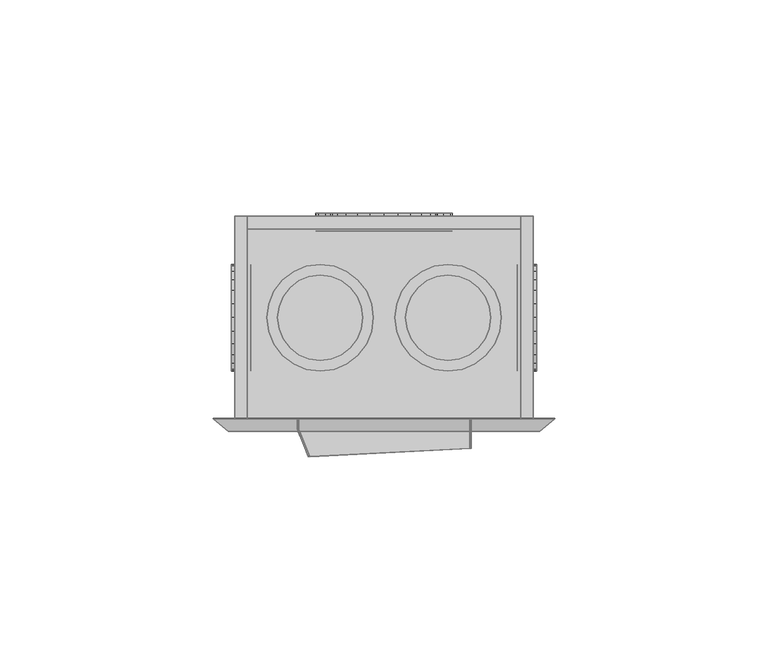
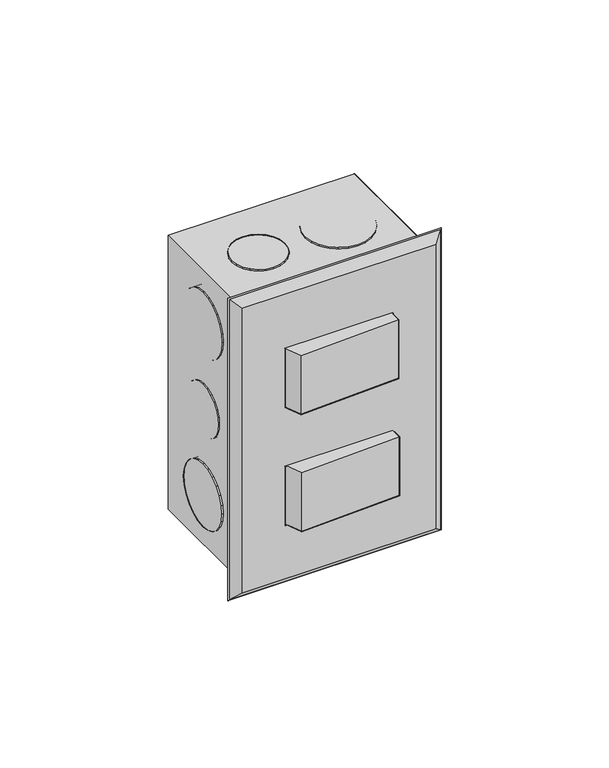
"""IFC4 building model written with IfcOpenShell, lengths in millimetres: proxy geometry,  210399 :  210399."""

from ifc_helpers import new_model, si_unit, origin, place, context, project, spatial, triangles, source, transform, mapped, element, save


def generic_models_5011d82d(model_context):
    return source(origin(), model_context, "Body", "Tessellation", [
        triangles([(27921.0003845, 13148.2997681, 1254.3000378), (27918.0005676, 13148.2997681, 1148.7000154), (27921.0003845, 13148.2997681, 1145.6999805), (27918.0005676, 13148.2997681, 1251.2999302), (27851.0000061, 13148.2997681, 1254.3000378), (27853.999823, 13148.2997681, 1251.2999302), (27851.0000061, 13148.2997681, 1145.6999805), (27853.999823, 13148.2997681, 1148.7000154), (27918.0005676, 13195.8003571, 1251.2999302), (27918.0005676, 13195.8003571, 1148.7000154), (27851.0000061, 13195.8003571, 1254.3000378), (27851.0000061, 13195.8003571, 1145.6999805), (27853.999823, 13195.8003571, 1251.2999302), (27921.0003845, 13195.8003571, 1145.6999805), (27853.999823, 13195.8003571, 1148.7000154), (27921.0003845, 13195.8003571, 1254.3000378), (27918.0005676, 13192.8005402, 1251.2999302), (27853.999823, 13192.8005402, 1148.7000154), (27918.0005676, 13192.8005402, 1148.7000154), (27853.999823, 13192.8005402, 1251.2999302), (27893.999707, 13196.5003143, 1186.0999855), (27899.8993469, 13196.5003143, 1191.9999887), (27897.2995056, 13196.5003143, 1188.6999722), (27890.199939, 13196.5003143, 1184.5000105), (27901.4992493, 13196.5003143, 1195.8999687), (27886.0001953, 13196.5003143, 1183.9999683), (27901.9992187, 13196.5003143, 1200.0000092), (27881.9004456, 13196.5003143, 1184.5000105), (27901.4992493, 13196.5003143, 1204.0999769), (27878.0006836, 13196.5003143, 1186.0999855), (27899.8993469, 13196.5003143, 1208.0000296), (27874.700885, 13196.5003143, 1188.6999722), (27897.2995056, 13196.5003143, 1211.2999735), (27872.2010376, 13196.5003143, 1191.9999887), (27893.999707, 13196.5003143, 1213.9000328), (27870.6011353, 13196.5003143, 1195.8999687), (27890.199939, 13196.5003143, 1215.5000078), (27869.9988464, 13196.5003143, 1200.0000092), (27886.0001953, 13196.5003143, 1215.9999773), (27870.6011353, 13196.5003143, 1204.0999769), (27881.9004456, 13196.5003143, 1215.5000078), (27872.2010376, 13196.5003143, 1208.0000296), (27878.0006836, 13196.5003143, 1213.9000328), (27874.700885, 13196.5003143, 1211.2999735), (27890.199939, 13192.3005707, 1215.5000078), (27886.0001953, 13192.3005707, 1215.9999773), (27893.999707, 13192.3005707, 1213.9000328), (27897.2995056, 13192.3005707, 1211.2999735), (27899.8993469, 13192.3005707, 1208.0000296), (27901.4992493, 13192.3005707, 1204.0999769), (27901.9992187, 13192.3005707, 1200.0000092), (27901.4992493, 13192.3005707, 1195.8999687), (27899.8993469, 13192.3005707, 1191.9999887), (27897.2995056, 13192.3005707, 1188.6999722), (27893.999707, 13192.3005707, 1186.0999855), (27890.199939, 13192.3005707, 1184.5000105), (27886.0001953, 13192.3005707, 1183.9999683), (27881.9004456, 13192.3005707, 1184.5000105), (27878.0006836, 13192.3005707, 1186.0999855), (27874.700885, 13192.3005707, 1188.6999722), (27872.2010376, 13192.3005707, 1191.9999887), (27870.6011353, 13192.3005707, 1195.8999687), (27869.9988464, 13192.3005707, 1200.0000092), (27870.6011353, 13192.3005707, 1204.0999769), (27872.2010376, 13192.3005707, 1208.0000296), (27874.700885, 13192.3005707, 1211.2999735), (27878.0006836, 13192.3005707, 1213.9000328), (27881.9004456, 13192.3005707, 1215.5000078), (27896.89953, 13192.3005707, 1227.8000565), (27892.2998108, 13192.3005707, 1223.2000465), (27894.8996521, 13192.3005707, 1225.2000698), (27898.0994568, 13192.3005707, 1230.8000187), (27889.2999939, 13192.3005707, 1221.8999805), (27898.4994324, 13192.3005707, 1233.9999687), (27886.0001953, 13192.3005707, 1221.500005), (27898.0994568, 13192.3005707, 1237.2000641), (27882.8003906, 13192.3005707, 1221.8999805), (27896.89953, 13192.3005707, 1240.3000202), (27879.8005737, 13192.3005707, 1223.2000465), (27894.8996521, 13192.3005707, 1242.800013), (27877.2007324, 13192.3005707, 1225.2000698), (27875.2008545, 13192.3005707, 1227.8000565), (27892.2998108, 13192.3005707, 1244.8000362), (27889.2999939, 13192.3005707, 1246.0999569), (27874.0009277, 13192.3005707, 1230.8000187), (27886.0001953, 13192.3005707, 1246.4999325), (27873.5009583, 13192.3005707, 1233.9999687), (27882.8003906, 13192.3005707, 1246.0999569), (27874.0009277, 13192.3005707, 1237.2000641), (27875.2008545, 13192.3005707, 1240.3000202), (27879.8005737, 13192.3005707, 1244.8000362), (27877.2007324, 13192.3005707, 1242.800013), (27874.0009277, 13196.5003143, 1230.8000187), (27875.2008545, 13196.5003143, 1227.8000565), (27877.2007324, 13196.5003143, 1225.2000698), (27879.8005737, 13196.5003143, 1223.2000465), (27882.8003906, 13196.5003143, 1221.8999805), (27886.0001953, 13196.5003143, 1221.500005), (27889.2999939, 13196.5003143, 1221.8999805), (27892.2998108, 13196.5003143, 1223.2000465), (27894.8996521, 13196.5003143, 1225.2000698), (27896.89953, 13196.5003143, 1227.8000565), (27898.0994568, 13196.5003143, 1230.8000187), (27898.4994324, 13196.5003143, 1233.9999687), (27898.0994568, 13196.5003143, 1237.2000641), (27896.89953, 13196.5003143, 1240.3000202), (27894.8996521, 13196.5003143, 1242.800013), (27892.2998108, 13196.5003143, 1244.8000362), (27889.2999939, 13196.5003143, 1246.0999569), (27886.0001953, 13196.5003143, 1246.4999325), (27882.8003906, 13196.5003143, 1246.0999569), (27879.8005737, 13196.5003143, 1244.8000362), (27877.2007324, 13196.5003143, 1242.800013), (27875.2008545, 13196.5003143, 1240.3000202), (27874.0009277, 13196.5003143, 1237.2000641), (27873.5009583, 13196.5003143, 1233.9999687), (27892.2998108, 13196.5003143, 1155.1999821), (27896.89953, 13196.5003143, 1159.6999981), (27894.8996521, 13196.5003143, 1157.2000053), (27889.2999939, 13196.5003143, 1153.8999887), (27898.0994568, 13196.5003143, 1162.8000269), (27886.0001953, 13196.5003143, 1153.5000132), (27898.4994324, 13196.5003143, 1165.9999769), (27882.8003906, 13196.5003143, 1153.8999887), (27898.0994568, 13196.5003143, 1169.1999996), (27879.8005737, 13196.5003143, 1155.1999821), (27896.89953, 13196.5003143, 1172.2000345), (27877.2007324, 13196.5003143, 1157.2000053), (27894.8996521, 13196.5003143, 1174.8000212), (27875.2008545, 13196.5003143, 1159.6999981), (27892.2998108, 13196.5003143, 1176.7999718), (27874.0009277, 13196.5003143, 1162.8000269), (27889.2999939, 13196.5003143, 1178.0999651), (27886.0001953, 13196.5003143, 1178.5000134), (27873.5009583, 13196.5003143, 1165.9999769), (27874.0009277, 13196.5003143, 1169.1999996), (27882.8003906, 13196.5003143, 1178.0999651), (27875.2008545, 13196.5003143, 1172.2000345), (27879.8005737, 13196.5003143, 1176.7999718), (27877.2007324, 13196.5003143, 1174.8000212), (27889.2999939, 13192.3005707, 1178.0999651), (27886.0001953, 13192.3005707, 1178.5000134), (27892.2998108, 13192.3005707, 1176.7999718), (27894.8996521, 13192.3005707, 1174.8000212), (27896.89953, 13192.3005707, 1172.2000345), (27898.0994568, 13192.3005707, 1169.1999996), (27898.4994324, 13192.3005707, 1165.9999769), (27898.0994568, 13192.3005707, 1162.8000269), (27896.89953, 13192.3005707, 1159.6999981), (27894.8996521, 13192.3005707, 1157.2000053), (27892.2998108, 13192.3005707, 1155.1999821), (27889.2999939, 13192.3005707, 1153.8999887), (27886.0001953, 13192.3005707, 1153.5000132), (27882.8003906, 13192.3005707, 1153.8999887), (27879.8005737, 13192.3005707, 1155.1999821), (27877.2007324, 13192.3005707, 1157.2000053), (27875.2008545, 13192.3005707, 1159.6999981), (27874.0009277, 13192.3005707, 1162.8000269), (27873.5009583, 13192.3005707, 1165.9999769), (27874.0009277, 13192.3005707, 1169.1999996), (27875.2008545, 13192.3005707, 1172.2000345), (27877.2007324, 13192.3005707, 1174.8000212), (27879.8005737, 13192.3005707, 1176.7999718), (27882.8003906, 13192.3005707, 1178.0999651), (27921.8003357, 13180.700116, 1195.0000237), (27921.8003357, 13177.0003418, 1191.3000315), (27921.8003357, 13179.1002136, 1192.9000065), (27921.8003357, 13181.7000549, 1197.4000225), (27921.8003357, 13174.6004883, 1190.3000198), (27921.8003357, 13182.0000366, 1200.0000092), (27921.8003357, 13171.9994843, 1189.9999655), (27921.8003357, 13181.7000549, 1202.5999958), (27921.8003357, 13169.3996429, 1190.3000198), (27921.8003357, 13180.700116, 1204.9999947), (27921.8003357, 13166.9997894, 1191.3000315), (27921.8003357, 13179.1002136, 1207.1000118), (27921.8003357, 13164.8999176, 1192.9000065), (27921.8003357, 13177.0003418, 1208.6999868), (27921.8003357, 13163.3000153, 1195.0000237), (27921.8003357, 13174.6004883, 1209.6999985), (27921.8003357, 13162.3000763, 1197.4000225), (27921.8003357, 13162.0000946, 1200.0000092), (27921.8003357, 13171.9994843, 1209.9999802), (27921.8003357, 13169.3996429, 1209.6999985), (27921.8003357, 13162.3000763, 1202.5999958), (27921.8003357, 13166.9997894, 1208.6999868), (27921.8003357, 13163.3000153, 1204.9999947), (27921.8003357, 13164.8999176, 1207.1000118), (27917.2006165, 13174.6004883, 1209.6999985), (27917.2006165, 13171.9994843, 1209.9999802), (27917.2006165, 13169.3996429, 1209.6999985), (27917.2006165, 13166.9997894, 1208.6999868), (27917.2006165, 13164.8999176, 1207.1000118), (27917.2006165, 13163.3000153, 1204.9999947), (27917.2006165, 13162.3000763, 1202.5999958), (27917.2006165, 13162.0000946, 1200.0000092), (27917.2006165, 13162.3000763, 1197.4000225), (27917.2006165, 13163.3000153, 1195.0000237), (27917.2006165, 13164.8999176, 1192.9000065), (27917.2006165, 13166.9997894, 1191.3000315), (27917.2006165, 13169.3996429, 1190.3000198), (27917.2006165, 13171.9994843, 1189.9999655), (27917.2006165, 13174.6004883, 1190.3000198), (27917.2006165, 13177.0003418, 1191.3000315), (27917.2006165, 13179.1002136, 1192.9000065), (27917.2006165, 13180.700116, 1195.0000237), (27917.2006165, 13181.7000549, 1197.4000225), (27917.2006165, 13182.0000366, 1200.0000092), (27917.2006165, 13181.7000549, 1202.5999958), (27917.2006165, 13180.700116, 1204.9999947), (27917.2006165, 13179.1002136, 1207.1000118), (27917.2006165, 13177.0003418, 1208.6999868), (27917.2006165, 13178.3002625, 1223.2000465), (27917.2006165, 13182.7999878, 1227.8000565), (27917.2006165, 13180.8001099, 1225.2000698), (27917.2006165, 13175.2004517, 1221.8999805), (27917.2006165, 13184.0999084, 1230.8000187), (27917.2006165, 13184.499884, 1233.9999687), (27917.2006165, 13171.9994843, 1221.500005), (27917.2006165, 13168.7996796, 1221.8999805), (27917.2006165, 13184.0999084, 1237.2000641), (27917.2006165, 13182.7999878, 1240.3000202), (27917.2006165, 13165.7998627, 1223.2000465), (27917.2006165, 13163.2000214, 1225.2000698), (27917.2006165, 13180.8001099, 1242.800013), (27917.2006165, 13161.2001434, 1227.8000565), (27917.2006165, 13178.3002625, 1244.8000362), (27917.2006165, 13159.9002228, 1230.8000187), (27917.2006165, 13175.2004517, 1246.0999569), (27917.2006165, 13159.5002472, 1233.9999687), (27917.2006165, 13171.9994843, 1246.4999325), (27917.2006165, 13159.9002228, 1237.2000641), (27917.2006165, 13168.7996796, 1246.0999569), (27917.2006165, 13161.2001434, 1240.3000202), (27917.2006165, 13165.7998627, 1244.8000362), (27917.2006165, 13163.2000214, 1242.800013), (27921.8003357, 13171.9994843, 1221.500005), (27921.8003357, 13175.2004517, 1221.8999805), (27921.8003357, 13168.7996796, 1221.8999805), (27921.8003357, 13165.7998627, 1223.2000465), (27921.8003357, 13163.2000214, 1225.2000698), (27921.8003357, 13161.2001434, 1227.8000565), (27921.8003357, 13159.9002228, 1230.8000187), (27921.8003357, 13159.5002472, 1233.9999687), (27921.8003357, 13159.9002228, 1237.2000641), (27921.8003357, 13161.2001434, 1240.3000202), (27921.8003357, 13163.2000214, 1242.800013), (27921.8003357, 13165.7998627, 1244.8000362), (27921.8003357, 13168.7996796, 1246.0999569), (27921.8003357, 13171.9994843, 1246.4999325), (27921.8003357, 13175.2004517, 1246.0999569), (27921.8003357, 13178.3002625, 1244.8000362), (27921.8003357, 13180.8001099, 1242.800013), (27921.8003357, 13182.7999878, 1240.3000202), (27921.8003357, 13184.0999084, 1237.2000641), (27921.8003357, 13184.499884, 1233.9999687), (27921.8003357, 13184.0999084, 1230.8000187), (27921.8003357, 13182.7999878, 1227.8000565), (27921.8003357, 13180.8001099, 1225.2000698), (27921.8003357, 13178.3002625, 1223.2000465), (27921.8003357, 13182.7999878, 1159.6999981), (27921.8003357, 13178.3002625, 1155.1999821), (27921.8003357, 13180.8001099, 1157.2000053), (27921.8003357, 13184.0999084, 1162.8000269), (27921.8003357, 13175.2004517, 1153.8999887), (27921.8003357, 13184.499884, 1165.9999769), (27921.8003357, 13171.9994843, 1153.5000132), (27921.8003357, 13184.0999084, 1169.1999996), (27921.8003357, 13168.7996796, 1153.8999887), (27921.8003357, 13182.7999878, 1172.2000345), (27921.8003357, 13165.7998627, 1155.1999821), (27921.8003357, 13180.8001099, 1174.8000212), (27921.8003357, 13163.2000214, 1157.2000053), (27921.8003357, 13178.3002625, 1176.7999718), (27921.8003357, 13161.2001434, 1159.6999981), (27921.8003357, 13175.2004517, 1178.0999651), (27921.8003357, 13159.9002228, 1162.8000269), (27921.8003357, 13171.9994843, 1178.5000134), (27921.8003357, 13159.5002472, 1165.9999769), (27921.8003357, 13168.7996796, 1178.0999651), (27921.8003357, 13159.9002228, 1169.1999996), (27921.8003357, 13165.7998627, 1176.7999718), (27921.8003357, 13161.2001434, 1172.2000345), (27921.8003357, 13163.2000214, 1174.8000212), (27917.2006165, 13175.2004517, 1178.0999651), (27917.2006165, 13171.9994843, 1178.5000134), (27917.2006165, 13168.7996796, 1178.0999651), (27917.2006165, 13165.7998627, 1176.7999718), (27917.2006165, 13163.2000214, 1174.8000212), (27917.2006165, 13161.2001434, 1172.2000345), (27917.2006165, 13159.9002228, 1169.1999996), (27917.2006165, 13159.5002472, 1165.9999769), (27917.2006165, 13159.9002228, 1162.8000269), (27917.2006165, 13161.2001434, 1159.6999981), (27917.2006165, 13163.2000214, 1157.2000053), (27917.2006165, 13165.7998627, 1155.1999821), (27917.2006165, 13168.7996796, 1153.8999887), (27917.2006165, 13171.9994843, 1153.5000132), (27917.2006165, 13175.2004517, 1153.8999887), (27917.2006165, 13178.3002625, 1155.1999821), (27917.2006165, 13180.8001099, 1157.2000053), (27917.2006165, 13182.7999878, 1159.6999981), (27917.2006165, 13184.0999084, 1162.8000269), (27917.2006165, 13184.499884, 1165.9999769), (27917.2006165, 13184.0999084, 1169.1999996), (27917.2006165, 13182.7999878, 1172.2000345), (27917.2006165, 13180.8001099, 1174.8000212), (27917.2006165, 13178.3002625, 1176.7999718), (27850.2000549, 13177.0003418, 1191.3000315), (27850.2000549, 13180.700116, 1195.0000237), (27850.2000549, 13179.1002136, 1192.9000065), (27850.2000549, 13181.7000549, 1197.4000225), (27850.2000549, 13174.6004883, 1190.3000198), (27850.2000549, 13182.0000366, 1200.0000092), (27850.2000549, 13171.9994843, 1189.9999655), (27850.2000549, 13169.3996429, 1190.3000198), (27850.2000549, 13181.7000549, 1202.5999958), (27850.2000549, 13180.700116, 1204.9999947), (27850.2000549, 13166.9997894, 1191.3000315), (27850.2000549, 13179.1002136, 1207.1000118), (27850.2000549, 13164.8999176, 1192.9000065), (27850.2000549, 13163.3000153, 1195.0000237), (27850.2000549, 13177.0003418, 1208.6999868), (27850.2000549, 13162.3000763, 1197.4000225), (27850.2000549, 13174.6004883, 1209.6999985), (27850.2000549, 13162.0000946, 1200.0000092), (27850.2000549, 13171.9994843, 1209.9999802), (27850.2000549, 13162.3000763, 1202.5999958), (27850.2000549, 13169.3996429, 1209.6999985), (27850.2000549, 13166.9997894, 1208.6999868), (27850.2000549, 13163.3000153, 1204.9999947), (27850.2000549, 13164.8999176, 1207.1000118), (27854.7997742, 13174.6004883, 1190.3000198), (27854.7997742, 13177.0003418, 1191.3000315), (27854.7997742, 13171.9994843, 1189.9999655), (27854.7997742, 13169.3996429, 1190.3000198), (27854.7997742, 13166.9997894, 1191.3000315), (27854.7997742, 13164.8999176, 1192.9000065), (27854.7997742, 13163.3000153, 1195.0000237), (27854.7997742, 13162.3000763, 1197.4000225), (27854.7997742, 13162.0000946, 1200.0000092), (27854.7997742, 13162.3000763, 1202.5999958), (27854.7997742, 13163.3000153, 1204.9999947), (27854.7997742, 13164.8999176, 1207.1000118), (27854.7997742, 13166.9997894, 1208.6999868), (27854.7997742, 13169.3996429, 1209.6999985), (27854.7997742, 13171.9994843, 1209.9999802), (27854.7997742, 13174.6004883, 1209.6999985), (27854.7997742, 13177.0003418, 1208.6999868), (27854.7997742, 13179.1002136, 1207.1000118), (27854.7997742, 13180.700116, 1204.9999947), (27854.7997742, 13181.7000549, 1202.5999958), (27854.7997742, 13182.0000366, 1200.0000092), (27854.7997742, 13181.7000549, 1197.4000225), (27854.7997742, 13180.700116, 1195.0000237), (27854.7997742, 13179.1002136, 1192.9000065), (27854.7997742, 13182.7999878, 1159.6999981), (27854.7997742, 13178.3002625, 1155.1999821), (27854.7997742, 13180.8001099, 1157.2000053), (27854.7997742, 13184.0999084, 1162.8000269), (27854.7997742, 13175.2004517, 1153.8999887), (27854.7997742, 13184.499884, 1165.9999769), (27854.7997742, 13171.9994843, 1153.5000132), (27854.7997742, 13184.0999084, 1169.1999996), (27854.7997742, 13168.7996796, 1153.8999887), (27854.7997742, 13182.7999878, 1172.2000345), (27854.7997742, 13165.7998627, 1155.1999821), (27854.7997742, 13180.8001099, 1174.8000212), (27854.7997742, 13163.2000214, 1157.2000053), (27854.7997742, 13178.3002625, 1176.7999718), (27854.7997742, 13161.2001434, 1159.6999981), (27854.7997742, 13175.2004517, 1178.0999651), (27854.7997742, 13159.9002228, 1162.8000269), (27854.7997742, 13171.9994843, 1178.5000134), (27854.7997742, 13159.5002472, 1165.9999769), (27854.7997742, 13168.7996796, 1178.0999651), (27854.7997742, 13159.9002228, 1169.1999996), (27854.7997742, 13165.7998627, 1176.7999718), (27854.7997742, 13161.2001434, 1172.2000345), (27854.7997742, 13163.2000214, 1174.8000212), (27850.2000549, 13175.2004517, 1178.0999651), (27850.2000549, 13171.9994843, 1178.5000134), (27850.2000549, 13168.7996796, 1178.0999651), (27850.2000549, 13165.7998627, 1176.7999718), (27850.2000549, 13163.2000214, 1174.8000212), (27850.2000549, 13161.2001434, 1172.2000345), (27850.2000549, 13159.9002228, 1169.1999996), (27850.2000549, 13159.5002472, 1165.9999769), (27850.2000549, 13159.9002228, 1162.8000269), (27850.2000549, 13161.2001434, 1159.6999981), (27850.2000549, 13163.2000214, 1157.2000053), (27850.2000549, 13165.7998627, 1155.1999821), (27850.2000549, 13168.7996796, 1153.8999887), (27850.2000549, 13171.9994843, 1153.5000132), (27850.2000549, 13175.2004517, 1153.8999887), (27850.2000549, 13178.3002625, 1155.1999821), (27850.2000549, 13180.8001099, 1157.2000053), (27850.2000549, 13182.7999878, 1159.6999981), (27850.2000549, 13184.0999084, 1162.8000269), (27850.2000549, 13184.499884, 1165.9999769), (27850.2000549, 13184.0999084, 1169.1999996), (27850.2000549, 13182.7999878, 1172.2000345), (27850.2000549, 13180.8001099, 1174.8000212), (27850.2000549, 13178.3002625, 1176.7999718), (27850.2000549, 13178.3002625, 1223.2000465), (27850.2000549, 13182.7999878, 1227.8000565), (27850.2000549, 13180.8001099, 1225.2000698), (27850.2000549, 13175.2004517, 1221.8999805), (27850.2000549, 13184.0999084, 1230.8000187), (27850.2000549, 13184.499884, 1233.9999687), (27850.2000549, 13171.9994843, 1221.500005), (27850.2000549, 13168.7996796, 1221.8999805), (27850.2000549, 13184.0999084, 1237.2000641), (27850.2000549, 13182.7999878, 1240.3000202), (27850.2000549, 13165.7998627, 1223.2000465), (27850.2000549, 13163.2000214, 1225.2000698), (27850.2000549, 13180.8001099, 1242.800013), (27850.2000549, 13161.2001434, 1227.8000565), (27850.2000549, 13178.3002625, 1244.8000362), (27850.2000549, 13159.9002228, 1230.8000187), (27850.2000549, 13175.2004517, 1246.0999569), (27850.2000549, 13159.5002472, 1233.9999687), (27850.2000549, 13171.9994843, 1246.4999325), (27850.2000549, 13159.9002228, 1237.2000641), (27850.2000549, 13168.7996796, 1246.0999569), (27850.2000549, 13161.2001434, 1240.3000202), (27850.2000549, 13165.7998627, 1244.8000362), (27850.2000549, 13163.2000214, 1242.800013), (27854.7997742, 13171.9994843, 1221.500005), (27854.7997742, 13175.2004517, 1221.8999805), (27854.7997742, 13168.7996796, 1221.8999805), (27854.7997742, 13165.7998627, 1223.2000465), (27854.7997742, 13163.2000214, 1225.2000698), (27854.7997742, 13161.2001434, 1227.8000565), (27854.7997742, 13159.9002228, 1230.8000187), (27854.7997742, 13159.5002472, 1233.9999687), (27854.7997742, 13159.9002228, 1237.2000641), (27854.7997742, 13161.2001434, 1240.3000202), (27854.7997742, 13163.2000214, 1242.800013), (27854.7997742, 13165.7998627, 1244.8000362), (27854.7997742, 13168.7996796, 1246.0999569), (27854.7997742, 13171.9994843, 1246.4999325), (27854.7997742, 13175.2004517, 1246.0999569), (27854.7997742, 13178.3002625, 1244.8000362), (27854.7997742, 13180.8001099, 1242.800013), (27854.7997742, 13182.7999878, 1240.3000202), (27854.7997742, 13184.0999084, 1237.2000641), (27854.7997742, 13184.499884, 1233.9999687), (27854.7997742, 13184.0999084, 1230.8000187), (27854.7997742, 13182.7999878, 1227.8000565), (27854.7997742, 13180.8001099, 1225.2000698), (27854.7997742, 13178.3002625, 1223.2000465), (27907.2988953, 13182.7999878, 1255.1999828), (27911.9009399, 13178.3002625, 1255.1999828), (27909.901062, 13180.8001099, 1255.1999828), (27913.1008667, 13175.2004517, 1255.1999828), (27904.2990784, 13184.0999084, 1255.1999828), (27900.9992798, 13184.499884, 1255.1999828), (27913.5008423, 13171.9994843, 1255.1999828), (27913.1008667, 13168.7996796, 1255.1999828), (27897.7994751, 13184.0999084, 1255.1999828), (27894.7996582, 13182.7999878, 1255.1999828), (27911.9009399, 13165.7998627, 1255.1999828), (27909.901062, 13163.2000214, 1255.1999828), (27892.1998169, 13180.8001099, 1255.1999828), (27890.199939, 13178.3002625, 1255.1999828), (27907.2988953, 13161.2001434, 1255.1999828), (27904.2990784, 13159.9002228, 1255.1999828), (27889.0000122, 13175.2004517, 1255.1999828), (27900.9992798, 13159.5002472, 1255.1999828), (27888.5000427, 13171.9994843, 1255.1999828), (27897.7994751, 13159.9002228, 1255.1999828), (27889.0000122, 13168.7996796, 1255.1999828), (27890.199939, 13165.7998627, 1255.1999828), (27894.7996582, 13161.2001434, 1255.1999828), (27892.1998169, 13163.2000214, 1255.1999828), (27900.9992798, 13159.5002472, 1250.9999485), (27904.2990784, 13159.9002228, 1250.9999485), (27907.2988953, 13161.2001434, 1250.9999485), (27909.901062, 13163.2000214, 1250.9999485), (27911.9009399, 13165.7998627, 1250.9999485), (27913.1008667, 13168.7996796, 1250.9999485), (27913.5008423, 13171.9994843, 1250.9999485), (27913.1008667, 13175.2004517, 1250.9999485), (27911.9009399, 13178.3002625, 1250.9999485), (27909.901062, 13180.8001099, 1250.9999485), (27907.2988953, 13182.7999878, 1250.9999485), (27904.2990784, 13184.0999084, 1250.9999485), (27900.9992798, 13184.499884, 1250.9999485), (27897.7994751, 13184.0999084, 1250.9999485), (27894.7996582, 13182.7999878, 1250.9999485), (27892.1998169, 13180.8001099, 1250.9999485), (27890.199939, 13178.3002625, 1250.9999485), (27889.0000122, 13175.2004517, 1250.9999485), (27888.5000427, 13171.9994843, 1250.9999485), (27889.0000122, 13168.7996796, 1250.9999485), (27890.199939, 13165.7998627, 1250.9999485), (27892.1998169, 13163.2000214, 1250.9999485), (27894.7996582, 13161.2001434, 1250.9999485), (27897.7994751, 13159.9002228, 1250.9999485), (27879.7005798, 13177.0003418, 1250.9999485), (27876.0008057, 13180.700116, 1250.9999485), (27878.1006775, 13179.1002136, 1250.9999485), (27873.6009521, 13181.7000549, 1250.9999485), (27880.7005188, 13174.6004883, 1250.9999485), (27871.0011108, 13182.0000366, 1250.9999485), (27881.0005005, 13171.9994843, 1250.9999485), (27880.7005188, 13169.3996429, 1250.9999485), (27868.3989441, 13181.7000549, 1250.9999485), (27865.9990906, 13180.700116, 1250.9999485), (27879.7005798, 13166.9997894, 1250.9999485), (27863.9992126, 13179.1002136, 1250.9999485), (27878.1006775, 13164.8999176, 1250.9999485), (27876.0008057, 13163.3000153, 1250.9999485), (27862.3993103, 13177.0003418, 1250.9999485), (27861.3993713, 13174.6004883, 1250.9999485), (27873.6009521, 13162.3000763, 1250.9999485), (27871.0011108, 13162.0000946, 1250.9999485), (27860.9993958, 13171.9994843, 1250.9999485), (27868.3989441, 13162.3000763, 1250.9999485), (27861.3993713, 13169.3996429, 1250.9999485), (27865.9990906, 13163.3000153, 1250.9999485), (27862.3993103, 13166.9997894, 1250.9999485), (27863.9992126, 13164.8999176, 1250.9999485), (27868.3989441, 13181.7000549, 1255.1999828), (27865.9990906, 13180.700116, 1255.1999828), (27871.0011108, 13182.0000366, 1255.1999828), (27873.6009521, 13181.7000549, 1255.1999828), (27876.0008057, 13180.700116, 1255.1999828), (27878.1006775, 13179.1002136, 1255.1999828), (27879.7005798, 13177.0003418, 1255.1999828), (27880.7005188, 13174.6004883, 1255.1999828), (27881.0005005, 13171.9994843, 1255.1999828), (27880.7005188, 13169.3996429, 1255.1999828), (27879.7005798, 13166.9997894, 1255.1999828), (27878.1006775, 13164.8999176, 1255.1999828), (27876.0008057, 13163.3000153, 1255.1999828), (27873.6009521, 13162.3000763, 1255.1999828), (27871.0011108, 13162.0000946, 1255.1999828), (27868.3989441, 13162.3000763, 1255.1999828), (27865.9990906, 13163.3000153, 1255.1999828), (27863.9992126, 13164.8999176, 1255.1999828), (27862.3993103, 13166.9997894, 1255.1999828), (27861.3993713, 13169.3996429, 1255.1999828), (27860.9993958, 13171.9994843, 1255.1999828), (27861.3993713, 13174.6004883, 1255.1999828), (27862.3993103, 13177.0003418, 1255.1999828), (27863.9992126, 13179.1002136, 1255.1999828), (27909.7010742, 13177.0003418, 1144.8000355), (27905.9989746, 13180.700116, 1144.8000355), (27908.0988464, 13179.1002136, 1144.8000355), (27903.5991211, 13181.7000549, 1144.8000355), (27910.7010132, 13174.6004883, 1144.8000355), (27900.9992798, 13182.0000366, 1144.8000355), (27911.0009949, 13171.9994843, 1144.8000355), (27910.7010132, 13169.3996429, 1144.8000355), (27898.3994385, 13181.7000549, 1144.8000355), (27895.999585, 13180.700116, 1144.8000355), (27909.7010742, 13166.9997894, 1144.8000355), (27893.999707, 13179.1002136, 1144.8000355), (27908.0988464, 13164.8999176, 1144.8000355), (27905.9989746, 13163.3000153, 1144.8000355), (27892.3998047, 13177.0003418, 1144.8000355), (27891.3998657, 13174.6004883, 1144.8000355), (27903.5991211, 13162.3000763, 1144.8000355), (27900.9992798, 13162.0000946, 1144.8000355), (27890.9998901, 13171.9994843, 1144.8000355), (27898.3994385, 13162.3000763, 1144.8000355), (27891.3998657, 13169.3996429, 1144.8000355), (27895.999585, 13163.3000153, 1144.8000355), (27892.3998047, 13166.9997894, 1144.8000355), (27893.999707, 13164.8999176, 1144.8000355), (27903.5991211, 13181.7000549, 1149.099991), (27900.9992798, 13182.0000366, 1149.099991), (27905.9989746, 13180.700116, 1149.099991), (27908.0988464, 13179.1002136, 1149.099991), (27909.7010742, 13177.0003418, 1149.099991), (27910.7010132, 13174.6004883, 1149.099991), (27911.0009949, 13171.9994843, 1149.099991), (27910.7010132, 13169.3996429, 1149.099991), (27909.7010742, 13166.9997894, 1149.099991), (27908.0988464, 13164.8999176, 1149.099991), (27905.9989746, 13163.3000153, 1149.099991), (27903.5991211, 13162.3000763, 1149.099991), (27900.9992798, 13162.0000946, 1149.099991), (27898.3994385, 13162.3000763, 1149.099991), (27895.999585, 13163.3000153, 1149.099991), (27893.999707, 13164.8999176, 1149.099991), (27892.3998047, 13166.9997894, 1149.099991), (27891.3998657, 13169.3996429, 1149.099991), (27890.9998901, 13171.9994843, 1149.099991), (27891.3998657, 13174.6004883, 1149.099991), (27892.3998047, 13177.0003418, 1149.099991), (27893.999707, 13179.1002136, 1149.099991), (27895.999585, 13180.700116, 1149.099991), (27898.3994385, 13181.7000549, 1149.099991), (27881.9004456, 13178.3002625, 1144.8000355), (27877.3007263, 13182.7999878, 1144.8000355), (27879.9005676, 13180.8001099, 1144.8000355), (27883.1003723, 13175.2004517, 1144.8000355), (27874.3009094, 13184.0999084, 1144.8000355), (27871.0011108, 13184.499884, 1144.8000355), (27883.5003479, 13171.9994843, 1144.8000355), (27883.1003723, 13168.7996796, 1144.8000355), (27867.7989807, 13184.0999084, 1144.8000355), (27864.7991638, 13182.7999878, 1144.8000355), (27881.9004456, 13165.7998627, 1144.8000355), (27879.9005676, 13163.2000214, 1144.8000355), (27862.1993225, 13180.8001099, 1144.8000355), (27860.1994446, 13178.3002625, 1144.8000355), (27877.3007263, 13161.2001434, 1144.8000355), (27874.3009094, 13159.9002228, 1144.8000355), (27858.9995178, 13175.2004517, 1144.8000355), (27871.0011108, 13159.5002472, 1144.8000355), (27858.4995483, 13171.9994843, 1144.8000355), (27867.7989807, 13159.9002228, 1144.8000355), (27858.9995178, 13168.7996796, 1144.8000355), (27860.1994446, 13165.7998627, 1144.8000355), (27864.7991638, 13161.2001434, 1144.8000355), (27862.1993225, 13163.2000214, 1144.8000355), (27867.7989807, 13184.0999084, 1149.099991), (27864.7991638, 13182.7999878, 1149.099991), (27871.0011108, 13184.499884, 1149.099991), (27874.3009094, 13184.0999084, 1149.099991), (27877.3007263, 13182.7999878, 1149.099991), (27879.9005676, 13180.8001099, 1149.099991), (27881.9004456, 13178.3002625, 1149.099991), (27883.1003723, 13175.2004517, 1149.099991), (27883.5003479, 13171.9994843, 1149.099991), (27883.1003723, 13168.7996796, 1149.099991), (27881.9004456, 13165.7998627, 1149.099991), (27879.9005676, 13163.2000214, 1149.099991), (27877.3007263, 13161.2001434, 1149.099991), (27874.3009094, 13159.9002228, 1149.099991), (27871.0011108, 13159.5002472, 1149.099991), (27867.7989807, 13159.9002228, 1149.099991), (27864.7991638, 13161.2001434, 1149.099991), (27862.1993225, 13163.2000214, 1149.099991), (27860.1994446, 13165.7998627, 1149.099991), (27858.9995178, 13168.7996796, 1149.099991), (27858.4995483, 13171.9994843, 1149.099991), (27858.9995178, 13175.2004517, 1149.099991), (27860.1994446, 13178.3002625, 1149.099991), (27862.1993225, 13180.8001099, 1149.099991), (27846.0003113, 13148.2997681, 1139.9999651), (27906.1989624, 13148.2997681, 1164.5999897), (27926.0000793, 13148.2997681, 1139.9999651), (27865.7991028, 13148.2997681, 1164.5999897), (27846.0003113, 13148.2997681, 1259.9999805), (27865.7991028, 13148.2997681, 1188.0000149), (27865.7991028, 13148.2997681, 1211.3999674), (27865.7991028, 13148.2997681, 1234.8000652), (27926.0000793, 13148.2997681, 1259.9999805), (27906.1989624, 13148.2997681, 1188.0000149), (27906.1989624, 13148.2997681, 1211.3999674), (27906.1989624, 13148.2997681, 1234.8000652), (27906.1989624, 13145.2999512, 1188.0000149), (27865.7991028, 13145.2999512, 1188.0000149), (27906.1989624, 13145.2999512, 1234.8000652), (27865.7991028, 13145.2999512, 1234.8000652), (27865.7991028, 13145.2999512, 1164.5999897), (27865.7991028, 13145.2999512, 1211.3999674), (27906.1989624, 13145.2999512, 1164.5999897), (27906.1989624, 13145.2999512, 1211.3999674), (27922.500293, 13145.2999512, 1143.4999695), (27922.500293, 13145.2999512, 1256.5000488), (27849.5000977, 13145.2999512, 1143.4999695), (27849.5000977, 13145.2999512, 1256.5000488), (27906.0989685, 13141.3001953, 1211.2999735), (27865.6991089, 13148.2997681, 1211.2999735), (27906.0989685, 13148.2997681, 1211.2999735), (27868.2989502, 13139.4003113, 1211.2999735), (27865.6991089, 13145.7999207, 1211.2999735), (27906.0989685, 13148.2997681, 1234.7000713), (27865.6991089, 13148.2997681, 1234.7000713), (27906.0989685, 13141.3001953, 1234.7000713), (27868.2989502, 13139.4003113, 1234.7000713), (27865.6991089, 13145.7999207, 1234.7000713), (27906.3989502, 13141.3001953, 1164.6999836), (27865.9990906, 13148.2997681, 1164.6999836), (27906.3989502, 13148.2997681, 1164.6999836), (27868.5989319, 13139.4003113, 1164.6999836), (27865.9990906, 13145.7999207, 1164.6999836), (27906.3989502, 13148.2997681, 1188.1000088), (27865.9990906, 13148.2997681, 1188.1000088), (27906.3989502, 13141.3001953, 1188.1000088), (27868.5989319, 13139.4003113, 1188.1000088), (27865.9990906, 13145.7999207, 1188.1000088)], [[1, 2, 3], [2, 1, 4], [5, 4, 1], [4, 5, 6], [3, 2, 7], [7, 2, 8], [7, 8, 6], [7, 6, 5], [2, 9, 10], [9, 2, 4], [7, 11, 12], [11, 7, 5], [4, 13, 9], [13, 4, 6], [3, 12, 14], [12, 3, 7], [13, 8, 15], [8, 13, 6], [16, 3, 14], [3, 16, 1], [15, 2, 10], [2, 15, 8], [11, 1, 16], [1, 11, 5], [12, 10, 14], [10, 12, 15], [11, 15, 12], [15, 11, 13], [14, 10, 16], [16, 10, 9], [16, 9, 13], [16, 13, 11], [17, 18, 19], [18, 17, 20], [18, 13, 15], [13, 18, 20], [19, 15, 10], [15, 19, 18], [9, 19, 10], [19, 9, 17], [13, 17, 9], [17, 13, 20], [15, 9, 10], [9, 15, 13], [21, 22, 23], [22, 21, 24], [25, 22, 24], [25, 24, 26], [27, 25, 26], [27, 26, 28], [29, 27, 28], [29, 28, 30], [31, 29, 30], [31, 30, 32], [31, 32, 33], [33, 32, 34], [33, 34, 35], [35, 34, 36], [35, 36, 37], [37, 36, 38], [37, 38, 39], [39, 38, 40], [39, 40, 41], [41, 40, 42], [41, 42, 43], [43, 42, 44], [39, 45, 37], [45, 39, 46], [37, 47, 35], [47, 37, 45], [35, 48, 33], [48, 35, 47], [33, 49, 31], [49, 33, 48], [31, 50, 29], [50, 31, 49], [29, 51, 27], [51, 29, 50], [27, 52, 25], [52, 27, 51], [25, 53, 22], [53, 25, 52], [22, 54, 23], [54, 22, 53], [54, 21, 23], [21, 54, 55], [55, 24, 21], [24, 55, 56], [56, 26, 24], [26, 56, 57], [57, 28, 26], [28, 57, 58], [58, 30, 28], [30, 58, 59], [59, 32, 30], [32, 59, 60], [60, 34, 32], [34, 60, 61], [61, 36, 34], [36, 61, 62], [62, 38, 36], [38, 62, 63], [63, 40, 38], [40, 63, 64], [64, 42, 40], [42, 64, 65], [65, 44, 42], [44, 65, 66], [44, 67, 43], [67, 44, 66], [43, 68, 41], [68, 43, 67], [41, 46, 39], [46, 41, 68], [53, 55, 54], [55, 53, 52], [56, 55, 52], [56, 52, 51], [57, 56, 51], [57, 51, 50], [58, 57, 50], [58, 50, 49], [59, 58, 49], [59, 49, 48], [59, 48, 60], [60, 48, 47], [60, 47, 61], [61, 47, 45], [61, 45, 62], [62, 45, 46], [62, 46, 63], [63, 46, 68], [63, 68, 64], [64, 68, 67], [64, 67, 65], [65, 67, 66], [69, 70, 71], [70, 69, 72], [73, 70, 72], [73, 72, 74], [75, 73, 74], [75, 74, 76], [77, 75, 76], [77, 76, 78], [79, 77, 78], [79, 78, 80], [81, 79, 80], [81, 80, 82], [82, 80, 83], [82, 83, 84], [82, 84, 85], [85, 84, 86], [85, 86, 87], [87, 86, 88], [87, 88, 89], [89, 88, 90], [90, 88, 91], [90, 91, 92], [82, 93, 94], [93, 82, 85], [81, 94, 95], [94, 81, 82], [79, 95, 96], [95, 79, 81], [77, 96, 97], [96, 77, 79], [75, 97, 98], [97, 75, 77], [73, 98, 99], [98, 73, 75], [70, 99, 100], [99, 70, 73], [71, 100, 101], [100, 71, 70], [102, 71, 101], [71, 102, 69], [103, 69, 102], [69, 103, 72], [104, 72, 103], [72, 104, 74], [105, 74, 104], [74, 105, 76], [106, 76, 105], [76, 106, 78], [107, 78, 106], [78, 107, 80], [108, 80, 107], [80, 108, 83], [109, 83, 108], [83, 109, 84], [110, 84, 109], [84, 110, 86], [111, 86, 110], [86, 111, 88], [112, 88, 111], [88, 112, 91], [113, 91, 112], [91, 113, 92], [90, 113, 114], [113, 90, 92], [89, 114, 115], [114, 89, 90], [87, 115, 116], [115, 87, 89], [85, 116, 93], [116, 85, 87], [100, 102, 101], [102, 100, 99], [103, 102, 99], [103, 99, 98], [104, 103, 98], [104, 98, 97], [105, 104, 97], [106, 105, 97], [106, 97, 96], [106, 96, 95], [106, 95, 107], [107, 95, 94], [107, 94, 108], [108, 94, 93], [108, 93, 109], [109, 93, 116], [109, 116, 110], [110, 116, 115], [110, 115, 111], [111, 115, 114], [111, 114, 112], [112, 114, 113], [117, 118, 119], [118, 117, 120], [121, 118, 120], [121, 120, 122], [123, 121, 122], [123, 122, 124], [125, 123, 124], [125, 124, 126], [127, 125, 126], [127, 126, 128], [127, 128, 129], [129, 128, 130], [129, 130, 131], [131, 130, 132], [131, 132, 133], [133, 132, 134], [134, 132, 135], [134, 135, 136], [134, 136, 137], [137, 136, 138], [137, 138, 139], [139, 138, 140], [134, 141, 133], [141, 134, 142], [133, 143, 131], [143, 133, 141], [131, 144, 129], [144, 131, 143], [129, 145, 127], [145, 129, 144], [127, 146, 125], [146, 127, 145], [125, 147, 123], [147, 125, 146], [123, 148, 121], [148, 123, 147], [121, 149, 118], [149, 121, 148], [118, 150, 119], [150, 118, 149], [150, 117, 119], [117, 150, 151], [151, 120, 117], [120, 151, 152], [152, 122, 120], [122, 152, 153], [153, 124, 122], [124, 153, 154], [154, 126, 124], [126, 154, 155], [155, 128, 126], [128, 155, 156], [156, 130, 128], [130, 156, 157], [157, 132, 130], [132, 157, 158], [158, 135, 132], [135, 158, 159], [159, 136, 135], [136, 159, 160], [160, 138, 136], [138, 160, 161], [161, 140, 138], [140, 161, 162], [140, 163, 139], [163, 140, 162], [139, 164, 137], [164, 139, 163], [137, 142, 134], [142, 137, 164], [149, 151, 150], [151, 149, 148], [152, 151, 148], [153, 152, 148], [153, 148, 147], [153, 147, 146], [154, 153, 146], [154, 146, 145], [155, 154, 145], [155, 145, 144], [156, 155, 144], [156, 144, 157], [157, 144, 143], [157, 143, 141], [157, 141, 158], [158, 141, 142], [158, 142, 159], [159, 142, 164], [159, 164, 160], [160, 164, 163], [160, 163, 161], [161, 163, 162], [165, 166, 167], [166, 165, 168], [169, 166, 168], [169, 168, 170], [171, 169, 170], [171, 170, 172], [173, 171, 172], [173, 172, 174], [175, 173, 174], [175, 174, 176], [177, 175, 176], [177, 176, 178], [177, 178, 179], [179, 178, 180], [179, 180, 181], [181, 180, 182], [182, 180, 183], [182, 183, 184], [182, 184, 185], [185, 184, 186], [185, 186, 187], [187, 186, 188], [189, 183, 180], [183, 189, 190], [190, 184, 183], [184, 190, 191], [191, 186, 184], [186, 191, 192], [192, 188, 186], [188, 192, 193], [188, 194, 187], [194, 188, 193], [187, 195, 185], [195, 187, 194], [185, 196, 182], [196, 185, 195], [182, 197, 181], [197, 182, 196], [181, 198, 179], [198, 181, 197], [179, 199, 177], [199, 179, 198], [177, 200, 175], [200, 177, 199], [175, 201, 173], [201, 175, 200], [173, 202, 171], [202, 173, 201], [171, 203, 169], [203, 171, 202], [169, 204, 166], [204, 169, 203], [166, 205, 167], [205, 166, 204], [205, 165, 167], [165, 205, 206], [206, 168, 165], [168, 206, 207], [207, 170, 168], [170, 207, 208], [208, 172, 170], [172, 208, 209], [209, 174, 172], [174, 209, 210], [210, 176, 174], [176, 210, 211], [211, 178, 176], [178, 211, 212], [212, 180, 178], [180, 212, 189], [204, 206, 205], [207, 206, 204], [207, 204, 203], [208, 207, 203], [208, 203, 202], [208, 202, 201], [209, 208, 201], [210, 209, 201], [210, 201, 200], [211, 210, 200], [211, 200, 199], [211, 199, 198], [211, 198, 212], [212, 198, 197], [212, 197, 189], [189, 197, 196], [189, 196, 190], [190, 196, 195], [190, 195, 191], [191, 195, 192], [192, 195, 194], [192, 194, 193], [213, 214, 215], [214, 213, 216], [217, 214, 216], [218, 217, 216], [218, 216, 219], [218, 219, 220], [221, 218, 220], [222, 221, 220], [222, 220, 223], [222, 223, 224], [222, 224, 225], [225, 224, 226], [225, 226, 227], [227, 226, 228], [227, 228, 229], [229, 228, 230], [229, 230, 231], [231, 230, 232], [231, 232, 233], [233, 232, 234], [233, 234, 235], [235, 234, 236], [237, 216, 238], [216, 237, 219], [239, 219, 237], [219, 239, 220], [240, 220, 239], [220, 240, 223], [241, 223, 240], [223, 241, 224], [242, 224, 241], [224, 242, 226], [243, 226, 242], [226, 243, 228], [244, 228, 243], [228, 244, 230], [245, 230, 244], [230, 245, 232], [246, 232, 245], [232, 246, 234], [247, 234, 246], [234, 247, 236], [235, 247, 248], [247, 235, 236], [233, 248, 249], [248, 233, 235], [231, 249, 250], [249, 231, 233], [229, 250, 251], [250, 229, 231], [227, 251, 252], [251, 227, 229], [225, 252, 253], [252, 225, 227], [222, 253, 254], [253, 222, 225], [221, 254, 255], [254, 221, 222], [218, 255, 256], [255, 218, 221], [217, 256, 257], [256, 217, 218], [214, 257, 258], [257, 214, 217], [215, 258, 259], [258, 215, 214], [260, 215, 259], [215, 260, 213], [238, 213, 260], [213, 238, 216], [258, 260, 259], [260, 258, 257], [238, 260, 257], [238, 257, 256], [237, 238, 256], [237, 256, 255], [239, 237, 255], [239, 255, 254], [240, 239, 254], [240, 254, 253], [240, 253, 241], [241, 253, 252], [241, 252, 242], [242, 252, 251], [242, 251, 243], [243, 251, 244], [244, 251, 250], [244, 250, 249], [244, 249, 245], [245, 249, 246], [246, 249, 248], [246, 248, 247], [261, 262, 263], [262, 261, 264], [265, 262, 264], [265, 264, 266], [267, 265, 266], [267, 266, 268], [269, 267, 268], [269, 268, 270], [271, 269, 270], [271, 270, 272], [271, 272, 273], [273, 272, 274], [273, 274, 275], [275, 274, 276], [275, 276, 277], [277, 276, 278], [277, 278, 279], [279, 278, 280], [279, 280, 281], [281, 280, 282], [281, 282, 283], [283, 282, 284], [285, 278, 276], [278, 285, 286], [286, 280, 278], [280, 286, 287], [287, 282, 280], [282, 287, 288], [288, 284, 282], [284, 288, 289], [284, 290, 283], [290, 284, 289], [283, 291, 281], [291, 283, 290], [281, 292, 279], [292, 281, 291], [279, 293, 277], [293, 279, 292], [277, 294, 275], [294, 277, 293], [275, 295, 273], [295, 275, 294], [273, 296, 271], [296, 273, 295], [271, 297, 269], [297, 271, 296], [269, 298, 267], [298, 269, 297], [267, 299, 265], [299, 267, 298], [265, 300, 262], [300, 265, 299], [262, 301, 263], [301, 262, 300], [301, 261, 263], [261, 301, 302], [302, 264, 261], [264, 302, 303], [303, 266, 264], [266, 303, 304], [304, 268, 266], [268, 304, 305], [305, 270, 268], [270, 305, 306], [306, 272, 270], [272, 306, 307], [307, 274, 272], [274, 307, 308], [308, 276, 274], [276, 308, 285], [300, 302, 301], [302, 300, 299], [303, 302, 299], [303, 299, 298], [304, 303, 298], [304, 298, 297], [305, 304, 297], [305, 297, 296], [306, 305, 296], [306, 296, 295], [306, 295, 307], [307, 295, 294], [307, 294, 308], [308, 294, 293], [308, 293, 285], [285, 293, 286], [286, 293, 292], [286, 292, 291], [286, 291, 287], [287, 291, 288], [288, 291, 290], [288, 290, 289], [309, 310, 311], [312, 310, 309], [312, 309, 313], [314, 312, 313], [314, 313, 315], [314, 315, 316], [317, 314, 316], [318, 317, 316], [318, 316, 319], [320, 318, 319], [320, 319, 321], [320, 321, 322], [320, 322, 323], [323, 322, 324], [323, 324, 325], [325, 324, 326], [325, 326, 327], [327, 326, 328], [327, 328, 329], [329, 328, 330], [330, 328, 331], [330, 331, 332], [333, 309, 334], [309, 333, 313], [335, 313, 333], [313, 335, 315], [336, 315, 335], [315, 336, 316], [337, 316, 336], [316, 337, 319], [338, 319, 337], [319, 338, 321], [339, 321, 338], [321, 339, 322], [340, 322, 339], [322, 340, 324], [341, 324, 340], [324, 341, 326], [342, 326, 341], [326, 342, 328], [343, 328, 342], [328, 343, 331], [344, 331, 343], [331, 344, 332], [330, 344, 345], [344, 330, 332], [329, 345, 346], [345, 329, 330], [327, 346, 347], [346, 327, 329], [325, 347, 348], [347, 325, 327], [323, 348, 349], [348, 323, 325], [320, 349, 350], [349, 320, 323], [318, 350, 351], [350, 318, 320], [317, 351, 352], [351, 317, 318], [314, 352, 353], [352, 314, 317], [312, 353, 354], [353, 312, 314], [310, 354, 355], [354, 310, 312], [311, 355, 356], [355, 311, 310], [334, 311, 356], [311, 334, 309], [355, 334, 356], [334, 355, 354], [333, 334, 354], [333, 354, 353], [335, 333, 353], [335, 353, 352], [336, 335, 352], [336, 352, 351], [337, 336, 351], [337, 351, 350], [338, 337, 350], [338, 350, 349], [338, 349, 339], [339, 349, 348], [339, 348, 340], [340, 348, 341], [341, 348, 347], [341, 347, 346], [341, 346, 342], [342, 346, 345], [342, 345, 343], [343, 345, 344], [357, 358, 359], [358, 357, 360], [361, 358, 360], [361, 360, 362], [363, 361, 362], [363, 362, 364], [365, 363, 364], [365, 364, 366], [367, 365, 366], [367, 366, 368], [367, 368, 369], [369, 368, 370], [369, 370, 371], [371, 370, 372], [371, 372, 373], [373, 372, 374], [373, 374, 375], [375, 374, 376], [375, 376, 377], [377, 376, 378], [377, 378, 379], [379, 378, 380], [381, 374, 372], [374, 381, 382], [382, 376, 374], [376, 382, 383], [383, 378, 376], [378, 383, 384], [384, 380, 378], [380, 384, 385], [380, 386, 379], [386, 380, 385], [379, 387, 377], [387, 379, 386], [377, 388, 375], [388, 377, 387], [375, 389, 373], [389, 375, 388], [373, 390, 371], [390, 373, 389], [371, 391, 369], [391, 371, 390], [369, 392, 367], [392, 369, 391], [367, 393, 365], [393, 367, 392], [365, 394, 363], [394, 365, 393], [363, 395, 361], [395, 363, 394], [361, 396, 358], [396, 361, 395], [358, 397, 359], [397, 358, 396], [397, 357, 359], [357, 397, 398], [398, 360, 357], [360, 398, 399], [399, 362, 360], [362, 399, 400], [400, 364, 362], [364, 400, 401], [401, 366, 364], [366, 401, 402], [402, 368, 366], [368, 402, 403], [403, 370, 368], [370, 403, 404], [404, 372, 370], [372, 404, 381], [396, 398, 397], [398, 396, 395], [399, 398, 395], [399, 395, 394], [400, 399, 394], [400, 394, 393], [401, 400, 393], [401, 393, 392], [402, 401, 392], [402, 392, 391], [402, 391, 403], [403, 391, 390], [403, 390, 404], [404, 390, 389], [404, 389, 381], [381, 389, 382], [382, 389, 388], [382, 388, 387], [382, 387, 383], [383, 387, 384], [384, 387, 386], [384, 386, 385], [405, 406, 407], [406, 405, 408], [409, 406, 408], [410, 409, 408], [410, 408, 411], [410, 411, 412], [413, 410, 412], [414, 413, 412], [414, 412, 415], [414, 415, 416], [414, 416, 417], [417, 416, 418], [417, 418, 419], [419, 418, 420], [419, 420, 421], [421, 420, 422], [421, 422, 423], [423, 422, 424], [423, 424, 425], [425, 424, 426], [425, 426, 427], [427, 426, 428], [429, 408, 430], [408, 429, 411], [431, 411, 429], [411, 431, 412], [432, 412, 431], [412, 432, 415], [433, 415, 432], [415, 433, 416], [434, 416, 433], [416, 434, 418], [435, 418, 434], [418, 435, 420], [436, 420, 435], [420, 436, 422], [437, 422, 436], [422, 437, 424], [438, 424, 437], [424, 438, 426], [439, 426, 438], [426, 439, 428], [427, 439, 440], [439, 427, 428], [425, 440, 441], [440, 425, 427], [423, 441, 442], [441, 423, 425], [421, 442, 443], [442, 421, 423], [419, 443, 444], [443, 419, 421], [417, 444, 445], [444, 417, 419], [414, 445, 446], [445, 414, 417], [413, 446, 447], [446, 413, 414], [410, 447, 448], [447, 410, 413], [409, 448, 449], [448, 409, 410], [406, 449, 450], [449, 406, 409], [407, 450, 451], [450, 407, 406], [452, 407, 451], [407, 452, 405], [430, 405, 452], [405, 430, 408], [450, 452, 451], [452, 450, 449], [430, 452, 449], [430, 449, 448], [429, 430, 448], [429, 448, 447], [431, 429, 447], [431, 447, 446], [432, 431, 446], [432, 446, 445], [432, 445, 433], [433, 445, 444], [433, 444, 434], [434, 444, 443], [434, 443, 435], [435, 443, 436], [436, 443, 442], [436, 442, 441], [436, 441, 437], [437, 441, 438], [438, 441, 440], [438, 440, 439], [453, 454, 455], [456, 454, 453], [456, 453, 457], [456, 457, 458], [459, 456, 458], [460, 459, 458], [460, 458, 461], [460, 461, 462], [463, 460, 462], [464, 463, 462], [464, 462, 465], [464, 465, 466], [464, 466, 467], [467, 466, 468], [468, 466, 469], [468, 469, 470], [470, 469, 471], [470, 471, 472], [472, 471, 473], [472, 473, 474], [472, 474, 475], [475, 474, 476], [468, 477, 478], [477, 468, 470], [467, 478, 479], [478, 467, 468], [464, 479, 480], [479, 464, 467], [463, 480, 481], [480, 463, 464], [460, 481, 482], [481, 460, 463], [459, 482, 483], [482, 459, 460], [456, 483, 484], [483, 456, 459], [454, 484, 485], [484, 454, 456], [455, 485, 486], [485, 455, 454], [487, 455, 486], [455, 487, 453], [488, 453, 487], [453, 488, 457], [489, 457, 488], [457, 489, 458], [490, 458, 489], [458, 490, 461], [491, 461, 490], [461, 491, 462], [492, 462, 491], [462, 492, 465], [493, 465, 492], [465, 493, 466], [494, 466, 493], [466, 494, 469], [495, 469, 494], [469, 495, 471], [496, 471, 495], [471, 496, 473], [497, 473, 496], [473, 497, 474], [498, 474, 497], [474, 498, 476], [475, 498, 499], [498, 475, 476], [472, 499, 500], [499, 472, 475], [470, 500, 477], [500, 470, 472], [485, 487, 486], [487, 485, 484], [488, 487, 484], [489, 488, 484], [489, 484, 483], [489, 483, 482], [490, 489, 482], [491, 490, 482], [491, 482, 481], [491, 481, 480], [492, 491, 480], [492, 480, 493], [493, 480, 479], [493, 479, 478], [493, 478, 494], [494, 478, 477], [494, 477, 495], [495, 477, 500], [495, 500, 496], [496, 500, 497], [497, 500, 499], [497, 499, 498], [501, 502, 503], [504, 502, 501], [504, 501, 505], [506, 504, 505], [506, 505, 507], [506, 507, 508], [509, 506, 508], [510, 509, 508], [510, 508, 511], [512, 510, 511], [512, 511, 513], [512, 513, 514], [512, 514, 515], [515, 514, 516], [516, 514, 517], [516, 517, 518], [516, 518, 519], [519, 518, 520], [519, 520, 521], [521, 520, 522], [521, 522, 523], [523, 522, 524], [510, 525, 509], [525, 510, 526], [509, 527, 506], [527, 509, 525], [506, 528, 504], [528, 506, 527], [504, 529, 502], [529, 504, 528], [502, 530, 503], [530, 502, 529], [530, 501, 503], [501, 530, 531], [531, 505, 501], [505, 531, 532], [532, 507, 505], [507, 532, 533], [533, 508, 507], [508, 533, 534], [534, 511, 508], [511, 534, 535], [535, 513, 511], [513, 535, 536], [536, 514, 513], [514, 536, 537], [537, 517, 514], [517, 537, 538], [538, 518, 517], [518, 538, 539], [539, 520, 518], [520, 539, 540], [540, 522, 520], [522, 540, 541], [541, 524, 522], [524, 541, 542], [524, 543, 523], [543, 524, 542], [523, 544, 521], [544, 523, 543], [521, 545, 519], [545, 521, 544], [519, 546, 516], [546, 519, 545], [516, 547, 515], [547, 516, 546], [515, 548, 512], [548, 515, 547], [512, 526, 510], [526, 512, 548], [529, 531, 530], [531, 529, 528], [532, 531, 528], [532, 528, 527], [533, 532, 527], [534, 533, 527], [534, 527, 525], [534, 525, 526], [535, 534, 526], [535, 526, 548], [536, 535, 548], [536, 548, 537], [537, 548, 547], [537, 547, 546], [537, 546, 538], [538, 546, 539], [539, 546, 545], [539, 545, 540], [540, 545, 544], [540, 544, 541], [541, 544, 543], [541, 543, 542], [549, 550, 551], [552, 550, 549], [552, 549, 553], [554, 552, 553], [554, 553, 555], [554, 555, 556], [557, 554, 556], [558, 557, 556], [558, 556, 559], [560, 558, 559], [560, 559, 561], [560, 561, 562], [560, 562, 563], [563, 562, 564], [564, 562, 565], [564, 565, 566], [564, 566, 567], [567, 566, 568], [567, 568, 569], [569, 568, 570], [569, 570, 571], [571, 570, 572], [554, 573, 552], [573, 554, 574], [552, 575, 550], [575, 552, 573], [550, 576, 551], [576, 550, 575], [576, 549, 551], [549, 576, 577], [577, 553, 549], [553, 577, 578], [578, 555, 553], [555, 578, 579], [579, 556, 555], [556, 579, 580], [580, 559, 556], [559, 580, 581], [581, 561, 559], [561, 581, 582], [582, 562, 561], [562, 582, 583], [583, 565, 562], [565, 583, 584], [584, 566, 565], [566, 584, 585], [585, 568, 566], [568, 585, 586], [586, 570, 568], [570, 586, 587], [587, 572, 570], [572, 587, 588], [572, 589, 571], [589, 572, 588], [571, 590, 569], [590, 571, 589], [569, 591, 567], [591, 569, 590], [567, 592, 564], [592, 567, 591], [564, 593, 563], [593, 564, 592], [563, 594, 560], [594, 563, 593], [560, 595, 558], [595, 560, 594], [558, 596, 557], [596, 558, 595], [557, 574, 554], [574, 557, 596], [575, 577, 576], [577, 575, 573], [578, 577, 573], [578, 573, 574], [579, 578, 574], [580, 579, 574], [580, 574, 596], [580, 596, 595], [581, 580, 595], [581, 595, 594], [582, 581, 594], [582, 594, 583], [583, 594, 593], [583, 593, 592], [583, 592, 584], [584, 592, 585], [585, 592, 591], [585, 591, 586], [586, 591, 590], [586, 590, 587], [587, 590, 589], [587, 589, 588], [597, 598, 599], [598, 597, 600], [601, 598, 600], [602, 601, 600], [602, 600, 603], [602, 603, 604], [605, 602, 604], [606, 605, 604], [606, 604, 607], [606, 607, 608], [609, 606, 608], [609, 608, 610], [610, 608, 611], [610, 611, 612], [610, 612, 613], [613, 612, 614], [613, 614, 615], [615, 614, 616], [615, 616, 617], [617, 616, 618], [618, 616, 619], [618, 619, 620], [606, 621, 605], [621, 606, 622], [605, 623, 602], [623, 605, 621], [602, 624, 601], [624, 602, 623], [601, 625, 598], [625, 601, 624], [598, 626, 599], [626, 598, 625], [626, 597, 599], [597, 626, 627], [627, 600, 597], [600, 627, 628], [628, 603, 600], [603, 628, 629], [629, 604, 603], [604, 629, 630], [630, 607, 604], [607, 630, 631], [631, 608, 607], [608, 631, 632], [632, 611, 608], [611, 632, 633], [633, 612, 611], [612, 633, 634], [634, 614, 612], [614, 634, 635], [635, 616, 614], [616, 635, 636], [636, 619, 616], [619, 636, 637], [637, 620, 619], [620, 637, 638], [620, 639, 618], [639, 620, 638], [618, 640, 617], [640, 618, 639], [617, 641, 615], [641, 617, 640], [615, 642, 613], [642, 615, 641], [613, 643, 610], [643, 613, 642], [610, 644, 609], [644, 610, 643], [609, 622, 606], [622, 609, 644], [625, 627, 626], [628, 627, 625], [628, 625, 624], [628, 624, 623], [629, 628, 623], [630, 629, 623], [630, 623, 621], [630, 621, 622], [631, 630, 622], [632, 631, 622], [632, 622, 644], [632, 644, 643], [632, 643, 633], [633, 643, 634], [634, 643, 642], [634, 642, 635], [635, 642, 641], [635, 641, 636], [636, 641, 640], [636, 640, 639], [636, 639, 637], [637, 639, 638], [645, 646, 647], [646, 645, 648], [649, 648, 645], [648, 649, 650], [650, 649, 651], [651, 649, 652], [647, 646, 653], [653, 646, 654], [653, 654, 655], [653, 655, 656], [653, 656, 652], [653, 652, 649], [650, 655, 654], [655, 650, 651], [657, 650, 654], [650, 657, 658], [659, 652, 656], [652, 659, 660], [650, 661, 648], [661, 650, 658], [652, 662, 651], [662, 652, 660], [648, 663, 646], [663, 648, 661], [651, 664, 655], [664, 651, 662], [663, 654, 646], [654, 663, 657], [664, 656, 655], [656, 664, 659], [653, 665, 647], [665, 653, 666], [647, 665, 645], [645, 665, 667], [668, 645, 667], [645, 668, 649], [653, 668, 666], [649, 668, 653], [664, 658, 657], [658, 664, 662], [666, 663, 665], [663, 666, 657], [657, 666, 664], [664, 666, 659], [660, 659, 666], [668, 660, 666], [665, 663, 667], [667, 663, 661], [667, 661, 668], [668, 661, 658], [668, 658, 662], [668, 662, 660], [669, 670, 671], [670, 669, 672], [670, 672, 673], [670, 674, 671], [674, 670, 675], [674, 669, 671], [669, 674, 676], [676, 672, 669], [672, 676, 677], [672, 678, 673], [678, 672, 677], [673, 675, 670], [675, 673, 678], [675, 676, 674], [676, 675, 677], [677, 675, 678], [679, 680, 681], [680, 679, 682], [680, 682, 683], [680, 684, 681], [684, 680, 685], [684, 679, 681], [679, 684, 686], [686, 682, 679], [682, 686, 687], [682, 688, 683], [688, 682, 687], [683, 685, 680], [685, 683, 688], [685, 686, 684], [686, 685, 687], [687, 685, 688]], closed=False),
    ])


if __name__ == "__main__":
    model = new_model("IFC4")
    model_context = context("Model", 3, world=origin())
    ifc_project = project(units=[si_unit("LENGTHUNIT", "METRE", prefix="MILLI")], contexts=[model_context])
    site = spatial("IfcSite", under=ifc_project)
    building = spatial("IfcBuilding", under=site)
    placement = place(None, origin())
    generic_models_shape = generic_models_5011d82d(model_context)
    element("IfcBuildingElementProxy", 1, Name=" 210399 :  210399", ObjectType=" 210399 :  210399", at=placement, inside=building, context=model_context, shape_type="MappedRepresentation", body=[
        mapped(generic_models_shape, transform((0.0, 0.0, 0.0), x_axis=(1.0, 0.0, 0.0), y_axis=(0.0, 1.0, 0.0), z_axis=(0.0, 0.0, 1.0))),
    ])
    save(model, "model.ifc")
